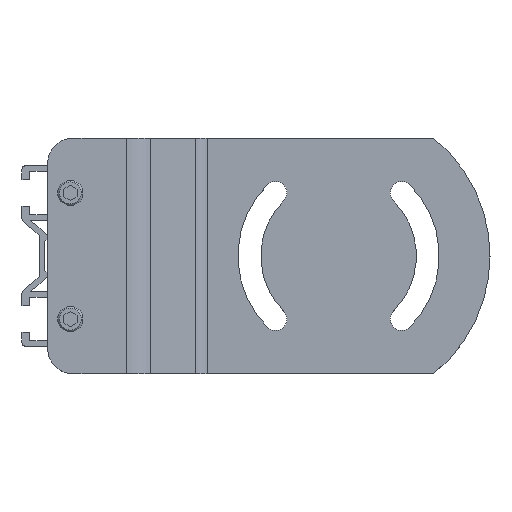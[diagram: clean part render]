
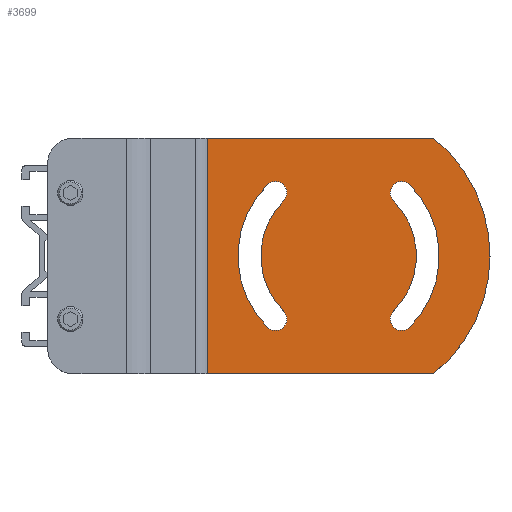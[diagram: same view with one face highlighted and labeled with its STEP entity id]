
A CAD part, left-side view. The second image highlights one B-rep face of the part: STEP entity #3699.
In plain terms, the highlighted planar face has unit normal (-1, 0, 0) as drawn and (0, 0, -1) by its records, which use the part's own axes.
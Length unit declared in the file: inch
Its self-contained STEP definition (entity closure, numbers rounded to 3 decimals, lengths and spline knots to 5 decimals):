
#3130=DIRECTION('',(0.,1.,0.));
#3131=VECTOR('',#3130,3.36221);
#3132=CARTESIAN_POINT('',(-3.5,0.83579,-0.25));
#3133=LINE('',#3132,#3131);
#3138=CARTESIAN_POINT('',(-1.75,2.25,-0.25));
#3139=DIRECTION('',(0.,0.,1.));
#3140=DIRECTION('',(0.,-1.,0.));
#3141=AXIS2_PLACEMENT_3D('',#3138,#3139,#3140);
#3143=DIRECTION('',(0.,1.,0.));
#3144=VECTOR('',#3143,3.36221);
#3145=CARTESIAN_POINT('',(0.,0.83579,-0.25));
#3146=LINE('',#3145,#3144);
#3147=CARTESIAN_POINT('',(-1.75,2.25,-0.25));
#3148=DIRECTION('',(0.,0.,1.));
#3149=DIRECTION('',(-0.778,-0.629,0.));
#3150=AXIS2_PLACEMENT_3D('',#3147,#3148,#3149);
#3152=CARTESIAN_POINT('',(-1.75,2.25,-0.25));
#3153=DIRECTION('',(0.,0.,1.));
#3154=DIRECTION('',(-0.707,-0.707,0.));
#3155=AXIS2_PLACEMENT_3D('',#3152,#3153,#3154);
#3157=CARTESIAN_POINT('',(-0.81238,1.31238,-0.25));
#3158=DIRECTION('',(0.,0.,-1.));
#3159=DIRECTION('',(-0.707,0.707,0.));
#3160=AXIS2_PLACEMENT_3D('',#3157,#3158,#3159);
#3162=CARTESIAN_POINT('',(-1.75,2.25,-0.25));
#3163=DIRECTION('',(0.,0.,-1.));
#3164=DIRECTION('',(0.707,-0.707,0.));
#3165=AXIS2_PLACEMENT_3D('',#3162,#3163,#3164);
#3167=CARTESIAN_POINT('',(-2.68762,1.31238,-0.25));
#3168=DIRECTION('',(0.,0.,-1.));
#3169=DIRECTION('',(-0.707,-0.707,0.));
#3170=AXIS2_PLACEMENT_3D('',#3167,#3168,#3169);
#3172=CARTESIAN_POINT('',(-1.75,2.25,-0.25));
#3173=DIRECTION('',(0.,0.,1.));
#3174=DIRECTION('',(0.707,0.707,0.));
#3175=AXIS2_PLACEMENT_3D('',#3172,#3173,#3174);
#3177=CARTESIAN_POINT('',(-2.68762,3.18762,-0.25));
#3178=DIRECTION('',(0.,0.,-1.));
#3179=DIRECTION('',(0.707,-0.707,0.));
#3180=AXIS2_PLACEMENT_3D('',#3177,#3178,#3179);
#3182=CARTESIAN_POINT('',(-1.75,2.25,-0.25));
#3183=DIRECTION('',(0.,0.,-1.));
#3184=DIRECTION('',(-0.707,0.707,0.));
#3185=AXIS2_PLACEMENT_3D('',#3182,#3183,#3184);
#3187=CARTESIAN_POINT('',(-0.81238,3.18762,-0.25));
#3188=DIRECTION('',(0.,0.,-1.));
#3189=DIRECTION('',(0.707,0.707,0.));
#3190=AXIS2_PLACEMENT_3D('',#3187,#3188,#3189);
#3196=DIRECTION('',(1.,0.,0.));
#3197=VECTOR('',#3196,3.5);
#3198=CARTESIAN_POINT('',(-3.5,4.198,-0.25));
#3199=LINE('',#3198,#3197);
#3446=CARTESIAN_POINT('',(0.,0.83579,-0.25));
#3447=VERTEX_POINT('',#3446);
#3448=CARTESIAN_POINT('',(-1.75,0.,-0.25));
#3449=VERTEX_POINT('',#3448);
#3450=CARTESIAN_POINT('',(0.,4.198,-0.25));
#3451=VERTEX_POINT('',#3450);
#3458=CARTESIAN_POINT('',(-3.5,4.198,-0.25));
#3459=VERTEX_POINT('',#3458);
#3462=CARTESIAN_POINT('',(-3.5,0.83579,-0.25));
#3463=VERTEX_POINT('',#3462);
#3464=CARTESIAN_POINT('',(-2.56742,1.43258,-0.25));
#3465=CARTESIAN_POINT('',(-0.93258,1.43258,-0.25));
#3466=VERTEX_POINT('',#3464);
#3467=VERTEX_POINT('',#3465);
#3468=CARTESIAN_POINT('',(-0.69217,1.19217,-0.25));
#3469=VERTEX_POINT('',#3468);
#3470=CARTESIAN_POINT('',(-2.80783,1.19217,-0.25));
#3471=VERTEX_POINT('',#3470);
#3472=CARTESIAN_POINT('',(-0.93258,3.06742,-0.25));
#3473=CARTESIAN_POINT('',(-2.56742,3.06742,-0.25));
#3474=VERTEX_POINT('',#3472);
#3475=VERTEX_POINT('',#3473);
#3476=CARTESIAN_POINT('',(-2.80783,3.30783,-0.25));
#3477=VERTEX_POINT('',#3476);
#3478=CARTESIAN_POINT('',(-0.69217,3.30783,-0.25));
#3479=VERTEX_POINT('',#3478);
#3666=CARTESIAN_POINT('',(0.,4.198,-0.25));
#3667=DIRECTION('',(0.,0.,1.));
#3668=DIRECTION('',(0.,-1.,0.));
#3669=AXIS2_PLACEMENT_3D('',#3666,#3667,#3668);
#3670=PLANE('',#3669);
#3671=ORIENTED_EDGE('',*,*,#3574,.T.);
#3672=ORIENTED_EDGE('',*,*,#3590,.T.);
#3674=ORIENTED_EDGE('',*,*,#3673,.F.);
#3675=ORIENTED_EDGE('',*,*,#3646,.F.);
#3676=ORIENTED_EDGE('',*,*,#3659,.T.);
#3677=EDGE_LOOP('',(#3671,#3672,#3674,#3675,#3676));
#3678=FACE_OUTER_BOUND('',#3677,.F.);
#3680=ORIENTED_EDGE('',*,*,#3679,.T.);
#3682=ORIENTED_EDGE('',*,*,#3681,.T.);
#3684=ORIENTED_EDGE('',*,*,#3683,.T.);
#3686=ORIENTED_EDGE('',*,*,#3685,.T.);
#3687=EDGE_LOOP('',(#3680,#3682,#3684,#3686));
#3688=FACE_BOUND('',#3687,.F.);
#3690=ORIENTED_EDGE('',*,*,#3689,.T.);
#3692=ORIENTED_EDGE('',*,*,#3691,.T.);
#3694=ORIENTED_EDGE('',*,*,#3693,.T.);
#3696=ORIENTED_EDGE('',*,*,#3695,.T.);
#3697=EDGE_LOOP('',(#3690,#3692,#3694,#3696));
#3698=FACE_BOUND('',#3697,.F.);
#3142=CIRCLE('',#3141,2.25);
#3151=CIRCLE('',#3150,2.25);
#3156=CIRCLE('',#3155,1.156);
#3161=CIRCLE('',#3160,0.17);
#3166=CIRCLE('',#3165,1.496);
#3171=CIRCLE('',#3170,0.17);
#3176=CIRCLE('',#3175,1.156);
#3181=CIRCLE('',#3180,0.17);
#3186=CIRCLE('',#3185,1.496);
#3191=CIRCLE('',#3190,0.17);
#3574=EDGE_CURVE('',#3449,#3447,#3142,.T.);
#3590=EDGE_CURVE('',#3447,#3451,#3146,.T.);
#3646=EDGE_CURVE('',#3463,#3459,#3133,.T.);
#3659=EDGE_CURVE('',#3463,#3449,#3151,.T.);
#3673=EDGE_CURVE('',#3459,#3451,#3199,.T.);
#3679=EDGE_CURVE('',#3466,#3467,#3156,.T.);
#3681=EDGE_CURVE('',#3467,#3469,#3161,.T.);
#3683=EDGE_CURVE('',#3469,#3471,#3166,.T.);
#3685=EDGE_CURVE('',#3471,#3466,#3171,.T.);
#3689=EDGE_CURVE('',#3474,#3475,#3176,.T.);
#3691=EDGE_CURVE('',#3475,#3477,#3181,.T.);
#3693=EDGE_CURVE('',#3477,#3479,#3186,.T.);
#3695=EDGE_CURVE('',#3479,#3474,#3191,.T.);
#3699=ADVANCED_FACE('',(#3678,#3688,#3698),#3670,.F.);
